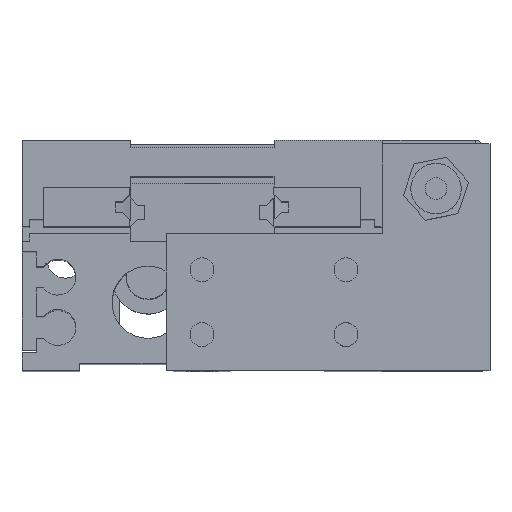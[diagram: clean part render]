
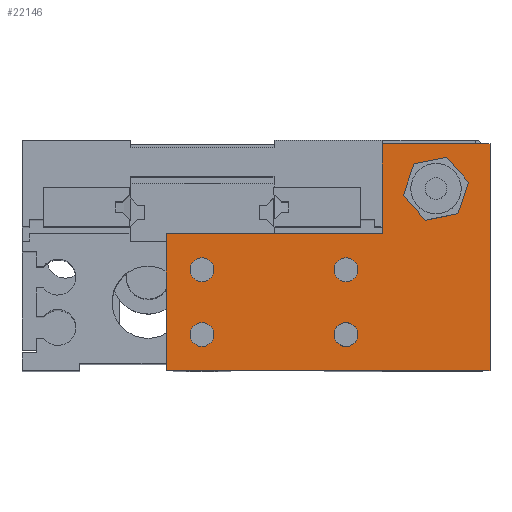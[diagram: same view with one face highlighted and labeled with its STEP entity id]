
A CAD part, top view. The second image highlights one B-rep face of the part: STEP entity #22146.
In plain terms, the highlighted planar face has unit normal (0, 0, 1).
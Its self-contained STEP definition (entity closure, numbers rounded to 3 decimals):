
#996 = LINE ( 'NONE', #1035, #1034 ) ;
#1033 = DIRECTION ( 'NONE',  ( -1., 0., 0. ) ) ;
#1034 = VECTOR ( 'NONE', #1033, 1000. ) ;
#1035 = CARTESIAN_POINT ( 'NONE',  ( 15., 22., 8. ) ) ;
#1233 = CARTESIAN_POINT ( 'NONE',  ( 30., -9.5, 8. ) ) ;
#3044 = DIRECTION ( 'NONE',  ( 0., 1., 0. ) ) ;
#3045 = VECTOR ( 'NONE', #3044, 1000. ) ;
#3052 = CARTESIAN_POINT ( 'NONE',  ( 30., 22., 8. ) ) ;
#3053 = LINE ( 'NONE', #3052, #3045 ) ;
#3578 = CARTESIAN_POINT ( 'NONE',  ( 30., 22., 8. ) ) ;
#4120 = CARTESIAN_POINT ( 'NONE',  ( 15., 22., 8. ) ) ;
#4699 = DIRECTION ( 'NONE',  ( 1., 0., 0. ) ) ;
#4700 = DIRECTION ( 'NONE',  ( 0., 0., 1. ) ) ;
#4701 = CARTESIAN_POINT ( 'NONE',  ( 22.5, 15.75, 8. ) ) ;
#4702 = AXIS2_PLACEMENT_3D ( 'NONE', #4701, #4700, #4699 ) ;
#4708 = CARTESIAN_POINT ( 'NONE',  ( 8.35, -4.5, 8. ) ) ;
#4711 = CIRCLE ( 'NONE', #4702, 3.5 ) ;
#4720 = CARTESIAN_POINT ( 'NONE',  ( 19., 15.75, 8. ) ) ;
#4731 = CIRCLE ( 'NONE', #4738, 1.65 ) ;
#4738 = AXIS2_PLACEMENT_3D ( 'NONE', #4788, #4787, #4786 ) ;
#4763 = CARTESIAN_POINT ( 'NONE',  ( -10., -4.5, 8. ) ) ;
#4764 = AXIS2_PLACEMENT_3D ( 'NONE', #4763, #4803, #4802 ) ;
#4773 = CARTESIAN_POINT ( 'NONE',  ( 26., 15.75, 8. ) ) ;
#4778 = CARTESIAN_POINT ( 'NONE',  ( 11.65, 4.5, 8. ) ) ;
#4784 = CARTESIAN_POINT ( 'NONE',  ( 8.35, 4.5, 8. ) ) ;
#4786 = DIRECTION ( 'NONE',  ( 1., 0., 0. ) ) ;
#4787 = DIRECTION ( 'NONE',  ( 0., 0., 1. ) ) ;
#4788 = CARTESIAN_POINT ( 'NONE',  ( 10., 4.5, 8. ) ) ;
#4801 = AXIS2_PLACEMENT_3D ( 'NONE', #4834, #4833, #4832 ) ;
#4802 = DIRECTION ( 'NONE',  ( 1., 0., 0. ) ) ;
#4803 = DIRECTION ( 'NONE',  ( 0., 0., 1. ) ) ;
#4821 = CIRCLE ( 'NONE', #4764, 1.65 ) ;
#4832 = DIRECTION ( 'NONE',  ( 1., 0., 0. ) ) ;
#4833 = DIRECTION ( 'NONE',  ( 0., 0., 1. ) ) ;
#4834 = CARTESIAN_POINT ( 'NONE',  ( 10., -4.5, 8. ) ) ;
#4835 = CARTESIAN_POINT ( 'NONE',  ( -8.35, -4.5, 8. ) ) ;
#4843 = CIRCLE ( 'NONE', #4801, 1.65 ) ;
#4851 = CARTESIAN_POINT ( 'NONE',  ( 11.65, -4.5, 8. ) ) ;
#4852 = CARTESIAN_POINT ( 'NONE',  ( -11.65, -4.5, 8. ) ) ;
#5093 = DIRECTION ( 'NONE',  ( 0., -1., 0. ) ) ;
#5094 = VECTOR ( 'NONE', #5093, 1000. ) ;
#5095 = CARTESIAN_POINT ( 'NONE',  ( 15., 9.5, 8. ) ) ;
#5096 = LINE ( 'NONE', #5095, #5094 ) ;
#6419 = DIRECTION ( 'NONE',  ( 1., 0., 0. ) ) ;
#6420 = DIRECTION ( 'NONE',  ( 0., 0., 1. ) ) ;
#6421 = CARTESIAN_POINT ( 'NONE',  ( -10., 4.5, 8. ) ) ;
#6424 = AXIS2_PLACEMENT_3D ( 'NONE', #6421, #6420, #6419 ) ;
#6432 = CIRCLE ( 'NONE', #6424, 1.65 ) ;
#6522 = DIRECTION ( 'NONE',  ( 1., 0., 0. ) ) ;
#6523 = DIRECTION ( 'NONE',  ( 0., 0., 1. ) ) ;
#6524 = CARTESIAN_POINT ( 'NONE',  ( 22.5, 15.75, 8. ) ) ;
#6525 = AXIS2_PLACEMENT_3D ( 'NONE', #6524, #6523, #6522 ) ;
#6530 = CIRCLE ( 'NONE', #6525, 3.5 ) ;
#6629 = DIRECTION ( 'NONE',  ( -1., 0., 0. ) ) ;
#6630 = VECTOR ( 'NONE', #6629, 1000. ) ;
#6631 = CARTESIAN_POINT ( 'NONE',  ( -15., 9.5, 8. ) ) ;
#6634 = FACE_BOUND ( 'NONE', #22218, .T. ) ;
#6643 = FACE_BOUND ( 'NONE', #22214, .T. ) ;
#6658 = LINE ( 'NONE', #6631, #6630 ) ;
#6671 = FACE_BOUND ( 'NONE', #22601, .T. ) ;
#6672 = FACE_OUTER_BOUND ( 'NONE', #21993, .T. ) ;
#6677 = FACE_BOUND ( 'NONE', #22182, .T. ) ;
#6678 = FACE_BOUND ( 'NONE', #22521, .T. ) ;
#6877 = AXIS2_PLACEMENT_3D ( 'NONE', #6925, #6924, #6937 ) ;
#6917 = PLANE ( 'NONE',  #6877 ) ;
#6924 = DIRECTION ( 'NONE',  ( 0., 0., 1. ) ) ;
#6925 = CARTESIAN_POINT ( 'NONE',  ( -15., -9.5, 8. ) ) ;
#6937 = DIRECTION ( 'NONE',  ( 1., 0., 0. ) ) ;
#7251 = DIRECTION ( 'NONE',  ( 1., 0., 0. ) ) ;
#7252 = DIRECTION ( 'NONE',  ( 0., 0., 1. ) ) ;
#7256 = CIRCLE ( 'NONE', #7257, 1.65 ) ;
#7257 = AXIS2_PLACEMENT_3D ( 'NONE', #7259, #7252, #7251 ) ;
#7259 = CARTESIAN_POINT ( 'NONE',  ( 10., 4.5, 8. ) ) ;
#7324 = CARTESIAN_POINT ( 'NONE',  ( -11.65, 4.5, 8. ) ) ;
#7377 = CARTESIAN_POINT ( 'NONE',  ( -15., 9.5, 8. ) ) ;
#7484 = CARTESIAN_POINT ( 'NONE',  ( -15., -9.5, 8. ) ) ;
#7521 = CARTESIAN_POINT ( 'NONE',  ( -8.35, 4.5, 8. ) ) ;
#7547 = CIRCLE ( 'NONE', #7691, 1.65 ) ;
#7550 = DIRECTION ( 'NONE',  ( 0., -1., 0. ) ) ;
#7551 = VECTOR ( 'NONE', #7550, 1000. ) ;
#7552 = CARTESIAN_POINT ( 'NONE',  ( -15., 9.5, 8. ) ) ;
#7553 = LINE ( 'NONE', #7552, #7551 ) ;
#7688 = DIRECTION ( 'NONE',  ( 1., 0., 0. ) ) ;
#7689 = DIRECTION ( 'NONE',  ( 0., 0., 1. ) ) ;
#7690 = CARTESIAN_POINT ( 'NONE',  ( -10., 4.5, 8. ) ) ;
#7691 = AXIS2_PLACEMENT_3D ( 'NONE', #7690, #7689, #7688 ) ;
#7756 = DIRECTION ( 'NONE',  ( 1., 0., 0. ) ) ;
#7757 = DIRECTION ( 'NONE',  ( 0., 0., 1. ) ) ;
#7758 = AXIS2_PLACEMENT_3D ( 'NONE', #7764, #7757, #7756 ) ;
#7759 = CIRCLE ( 'NONE', #7758, 1.65 ) ;
#7764 = CARTESIAN_POINT ( 'NONE',  ( -10., -4.5, 8. ) ) ;
#8192 = DIRECTION ( 'NONE',  ( 1., 0., 0. ) ) ;
#8193 = DIRECTION ( 'NONE',  ( 0., 0., 1. ) ) ;
#8194 = AXIS2_PLACEMENT_3D ( 'NONE', #8208, #8193, #8192 ) ;
#8198 = CIRCLE ( 'NONE', #8194, 1.65 ) ;
#8208 = CARTESIAN_POINT ( 'NONE',  ( 10., -4.5, 8. ) ) ;
#19300 = EDGE_CURVE ( 'NONE', #22301, #20338, #28160, .T. ) ;
#19322 = VERTEX_POINT ( 'NONE', #28285 ) ;
#20190 = EDGE_CURVE ( 'NONE', #21036, #21211, #996, .T. ) ;
#20338 = VERTEX_POINT ( 'NONE', #1233 ) ;
#20874 = EDGE_CURVE ( 'NONE', #20338, #21036, #3053, .T. ) ;
#21036 = VERTEX_POINT ( 'NONE', #3578 ) ;
#21211 = VERTEX_POINT ( 'NONE', #4120 ) ;
#21428 = VERTEX_POINT ( 'NONE', #4720 ) ;
#21437 = EDGE_CURVE ( 'NONE', #21428, #21493, #4711, .T. ) ;
#21438 = VERTEX_POINT ( 'NONE', #4708 ) ;
#21471 = EDGE_CURVE ( 'NONE', #21481, #21480, #4731, .T. ) ;
#21480 = VERTEX_POINT ( 'NONE', #4778 ) ;
#21481 = VERTEX_POINT ( 'NONE', #4784 ) ;
#21493 = VERTEX_POINT ( 'NONE', #4773 ) ;
#21496 = EDGE_CURVE ( 'NONE', #21509, #21511, #4821, .T. ) ;
#21504 = VERTEX_POINT ( 'NONE', #4851 ) ;
#21507 = EDGE_CURVE ( 'NONE', #21438, #21504, #4843, .T. ) ;
#21509 = VERTEX_POINT ( 'NONE', #4852 ) ;
#21511 = VERTEX_POINT ( 'NONE', #4835 ) ;
#21642 = EDGE_CURVE ( 'NONE', #21211, #19322, #5096, .T. ) ;
#21993 = EDGE_LOOP ( 'NONE', ( #22236, #22375, #22605, #22442, #22514, #22469 ) ) ;
#21996 = EDGE_CURVE ( 'NONE', #22339, #22257, #6432, .T. ) ;
#22002 = ORIENTED_EDGE ( 'NONE', *, *, #22221, .F. ) ;
#22018 = ORIENTED_EDGE ( 'NONE', *, *, #21996, .F. ) ;
#22021 = EDGE_CURVE ( 'NONE', #21493, #21428, #6530, .T. ) ;
#22030 = ORIENTED_EDGE ( 'NONE', *, *, #22387, .F. ) ;
#22068 = ORIENTED_EDGE ( 'NONE', *, *, #21437, .F. ) ;
#22072 = EDGE_CURVE ( 'NONE', #19322, #22393, #6658, .T. ) ;
#22132 = ORIENTED_EDGE ( 'NONE', *, *, #22021, .F. ) ;
#22146 = ADVANCED_FACE ( 'NONE', ( #6643, #6634, #6677, #6672, #6671, #6678 ), #6917, .T. ) ;
#22150 = ORIENTED_EDGE ( 'NONE', *, *, #21471, .F. ) ;
#22182 = EDGE_LOOP ( 'NONE', ( #22018, #22030 ) ) ;
#22214 = EDGE_LOOP ( 'NONE', ( #22132, #22068 ) ) ;
#22218 = EDGE_LOOP ( 'NONE', ( #22002, #22150 ) ) ;
#22221 = EDGE_CURVE ( 'NONE', #21480, #21481, #7256, .T. ) ;
#22236 = ORIENTED_EDGE ( 'NONE', *, *, #22348, .T. ) ;
#22257 = VERTEX_POINT ( 'NONE', #7324 ) ;
#22301 = VERTEX_POINT ( 'NONE', #7484 ) ;
#22339 = VERTEX_POINT ( 'NONE', #7521 ) ;
#22348 = EDGE_CURVE ( 'NONE', #22393, #22301, #7553, .T. ) ;
#22375 = ORIENTED_EDGE ( 'NONE', *, *, #19300, .T. ) ;
#22387 = EDGE_CURVE ( 'NONE', #22257, #22339, #7547, .T. ) ;
#22393 = VERTEX_POINT ( 'NONE', #7377 ) ;
#22442 = ORIENTED_EDGE ( 'NONE', *, *, #20190, .T. ) ;
#22456 = EDGE_CURVE ( 'NONE', #21511, #21509, #7759, .T. ) ;
#22469 = ORIENTED_EDGE ( 'NONE', *, *, #22072, .T. ) ;
#22472 = ORIENTED_EDGE ( 'NONE', *, *, #21507, .F. ) ;
#22514 = ORIENTED_EDGE ( 'NONE', *, *, #21642, .T. ) ;
#22521 = EDGE_LOOP ( 'NONE', ( #22568, #22472 ) ) ;
#22548 = EDGE_CURVE ( 'NONE', #21504, #21438, #8198, .T. ) ;
#22555 = ORIENTED_EDGE ( 'NONE', *, *, #21496, .F. ) ;
#22568 = ORIENTED_EDGE ( 'NONE', *, *, #22548, .F. ) ;
#22576 = ORIENTED_EDGE ( 'NONE', *, *, #22456, .F. ) ;
#22601 = EDGE_LOOP ( 'NONE', ( #22576, #22555 ) ) ;
#22605 = ORIENTED_EDGE ( 'NONE', *, *, #20874, .T. ) ;
#28160 = LINE ( 'NONE', #28193, #28192 ) ;
#28190 = DIRECTION ( 'NONE',  ( 1., 0., 0. ) ) ;
#28192 = VECTOR ( 'NONE', #28190, 1000. ) ;
#28193 = CARTESIAN_POINT ( 'NONE',  ( -15., -9.5, 8. ) ) ;
#28285 = CARTESIAN_POINT ( 'NONE',  ( 15., 9.5, 8. ) ) ;
